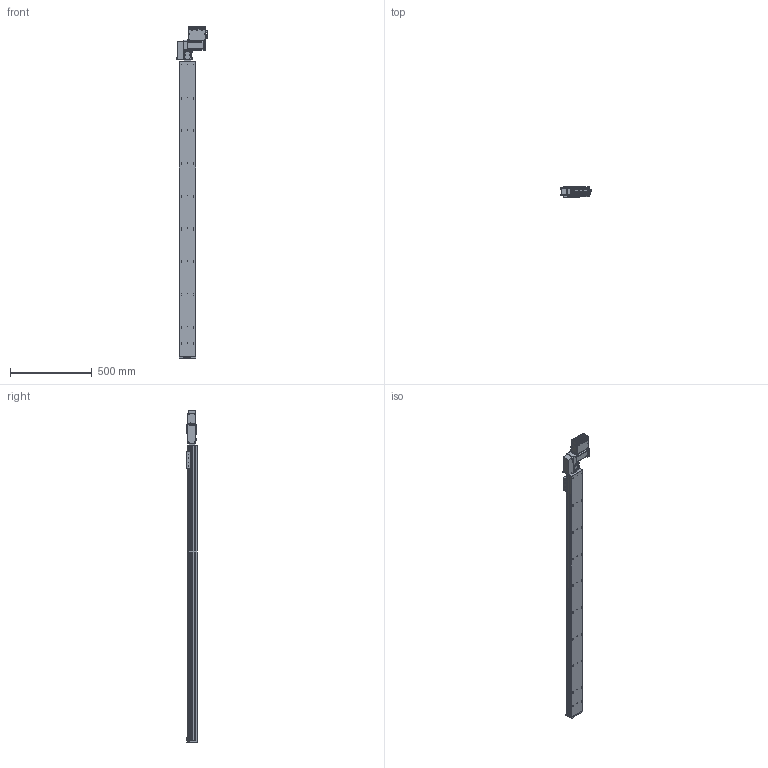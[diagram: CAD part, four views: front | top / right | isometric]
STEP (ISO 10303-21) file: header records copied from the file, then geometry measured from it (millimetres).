
FILE_DESCRIPTION (( 'STEP AP203' ), '1' );
FILE_NAME ('S10 TBN LH S1800.STEP', '2012-06-18T09:48:48', ( 'Conseil Régional Haute-Normandie' ), ( 'Conseil Régional Haute-Normandie' ), 'SwSTEP 2.0', 'SolidWorks 2010', '' );
FILE_SCHEMA (( 'CONFIG_CONTROL_DESIGN' ));
Length unit declared in the file: millimetre
Products named in the file (29): Vis M5 L16-2_Default_1; S10 TBN LH S1800; palette tbn; Sub D 9cts 90_X2_00B_X0__3; plaque de bout s10_Default; cache t皻e axe_Default; cache t皻e_Default; Cvis M5 L30_Default; embout; BU41 Carte Alimentation P05_3; Plaque racord_Default; renvoi LH_Default; vis M5 L12_Default; vis M5 L5_Default; Assem1_7; T_X2_00F4_X0_le contre le moteur_5; Colonnette_3; BU45 Carte d''axe A11_5; Moteur 60BLDC90A_3; Couvercle_3; T_X2_00F4_X0_le fond_3; Connecteur rond D10 3cts_5; Connecteur rond D12 4cts_5; Radiateur profil_X2_00E9_X0_ 100x25_3; Colonnette ronde_3; T_X2_00F4_X0_le Arri_X2_00E8_X0_re_5; T_X2_00F4_X0_le lat_X2_00E9_X0_rale_5; Vis TF 3 torkx_1_1; axe 1800
Assembly tree (62 placements, depth 3):
  S10 TBN LH S1800
    Vis M5 L16-2_Default_1  x4
    cache t皻e_Default  x2
    Plaque racord_Default
    vis M5 L12_Default  x4
    Cvis M5 L30_Default  x2
    vis M5 L5_Default  x4
    plaque de bout s10_Default
    axe 1800
    palette tbn
    embout
    Assem1_7
      Vis TF 3 torkx_1_1  x21
      BU41 Carte Alimentation P05_3
      Sub D 9cts 90_X2_00B_X0__3
      Radiateur profil_X2_00E9_X0_ 100x25_3
      BU45 Carte d''axe A11_5
      Couvercle_3
      T_X2_00F4_X0_le Arri_X2_00E8_X0_re_5
      T_X2_00F4_X0_le lat_X2_00E9_X0_rale_5  x2
      Colonnette ronde_3
      T_X2_00F4_X0_le contre le moteur_5
      Colonnette_3  x2
      T_X2_00F4_X0_le fond_3
      Moteur 60BLDC90A_3
      Connecteur rond D10 3cts_5  x2
      Connecteur rond D12 4cts_5
    cache t皻e axe_Default
    renvoi LH_Default
Bounding box: 189.8 x 66.75 x 2028.74 mm (x, y, z)
Volume: 10191226.1 mm3; surface area: 1169357.8 mm2
Topology: 61 solids, 61 shells, 2343 faces, 5802 edges, 3739 vertices
Faces by surface type: plane 1108, cylinder 1010, cone 182, bspline 40, torus 3
Entity records: 48935 total; most frequent: CARTESIAN_POINT 8814, DIRECTION 7929, ORIENTED_EDGE 7184, EDGE_CURVE 3592, AXIS2_PLACEMENT_3D 2953, VERTEX_POINT 2343, LINE 2023, VECTOR 2023
